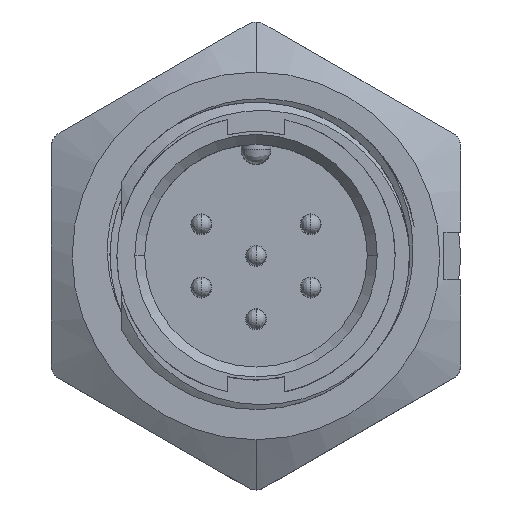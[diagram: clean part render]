
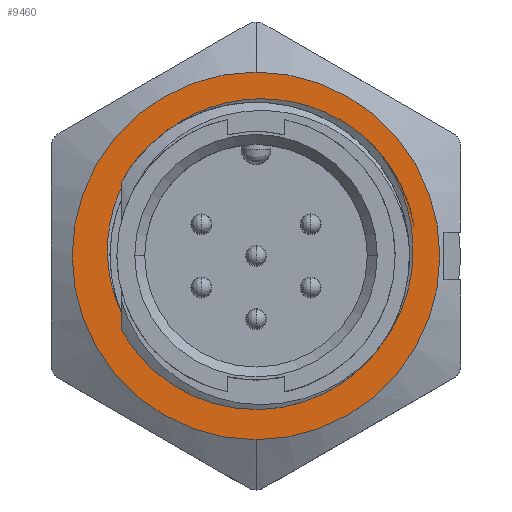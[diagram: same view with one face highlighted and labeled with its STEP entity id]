
A CAD part, top view. The second image highlights one B-rep face of the part: STEP entity #9460.
In plain terms, the highlighted planar face has unit normal (0, 0, 1).
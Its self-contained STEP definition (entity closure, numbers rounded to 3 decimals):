
#13 = CARTESIAN_POINT ( 'NONE',  ( 5.077, -5.803, -6.1 ) ) ;
#81 = CARTESIAN_POINT ( 'NONE',  ( -5.289, 5.656, -6.1 ) ) ;
#502 = CARTESIAN_POINT ( 'NONE',  ( 5.365, 6.07, -6.1 ) ) ;
#825 = EDGE_CURVE ( 'NONE', #9257, #6768, #1344, .T. ) ;
#884 = CARTESIAN_POINT ( 'NONE',  ( 2.14, 7.737, -6.1 ) ) ;
#935 = CARTESIAN_POINT ( 'NONE',  ( -6.682, -3.063, -6.1 ) ) ;
#1097 = CARTESIAN_POINT ( 'NONE',  ( 7.879, 1.35, -6.1 ) ) ;
#1233 = CARTESIAN_POINT ( 'NONE',  ( 6.808, -3.822, -6.1 ) ) ;
#1344 = CIRCLE ( 'NONE', #4347, 9.25 ) ;
#1443 = CARTESIAN_POINT ( 'NONE',  ( 5.578, 5.883, -6.1 ) ) ;
#1490 = ORIENTED_EDGE ( 'NONE', *, *, #5767, .F. ) ;
#1926 = CARTESIAN_POINT ( 'NONE',  ( -5.759, -4.569, -6.1 ) ) ;
#1969 = CARTESIAN_POINT ( 'NONE',  ( 5.365, 6.07, -6.1 ) ) ;
#2321 = CARTESIAN_POINT ( 'NONE',  ( -7.483, 1.038, -6.1 ) ) ;
#2554 = ORIENTED_EDGE ( 'NONE', *, *, #8163, .T. ) ;
#2592 = B_SPLINE_CURVE_WITH_KNOTS ( 'NONE', 3,
 ( #14337, #4383, #8807, #13172, #13247, #3297, #7717, #12148, #13100, #10841, #1926, #6485, #11857, #12083, #9817, #4311 ),
 .UNSPECIFIED., .F., .F.,
 ( 4, 1, 2, 2, 2, 1, 2, 2, 4 ),
 ( 0., 0.125, 0.188, 0.25, 0.5, 0.625, 0.688, 0.75, 1. ),
 .UNSPECIFIED. ) ;
#2645 = EDGE_LOOP ( 'NONE', ( #9627, #8910, #2554, #1490 ) ) ;
#2744 = AXIS2_PLACEMENT_3D ( 'NONE', #12476, #4917, #6013 ) ;
#2978 = CIRCLE ( 'NONE', #2744, 9.25 ) ;
#2981 = CARTESIAN_POINT ( 'NONE',  ( 0., 0., -6.1 ) ) ;
#3297 = CARTESIAN_POINT ( 'NONE',  ( -4.029, -6.148, -6.1 ) ) ;
#3338 = CARTESIAN_POINT ( 'NONE',  ( 7.06, 3.95, -6.1 ) ) ;
#3340 = CARTESIAN_POINT ( 'NONE',  ( -3.918, 6.752, -6.1 ) ) ;
#3412 = CARTESIAN_POINT ( 'NONE',  ( -3.134, 7.185, -6.1 ) ) ;
#3485 = CARTESIAN_POINT ( 'NONE',  ( 7.921, -0.448, -6.1 ) ) ;
#3519 = FACE_BOUND ( 'NONE', #2645, .T. ) ;
#3692 = CARTESIAN_POINT ( 'NONE',  ( 5.992, 5.451, -6.1 ) ) ;
#4311 = CARTESIAN_POINT ( 'NONE',  ( -6.682, -3.063, -6.1 ) ) ;
#4347 = AXIS2_PLACEMENT_3D ( 'NONE', #2981, #8276, #6374 ) ;
#4348 = CARTESIAN_POINT ( 'NONE',  ( 3.618, -6.74, -6.1 ) ) ;
#4383 = CARTESIAN_POINT ( 'NONE',  ( -3.169, -6.635, -6.1 ) ) ;
#4704 = CARTESIAN_POINT ( 'NONE',  ( -0.561, 7.913, -6.1 ) ) ;
#4740 = CARTESIAN_POINT ( 'NONE',  ( 0., 0., -6.1 ) ) ;
#4841 = CARTESIAN_POINT ( 'NONE',  ( 5.798, 5.667, -6.1 ) ) ;
#4917 = DIRECTION ( 'NONE',  ( 0., 0., -1. ) ) ;
#4942 = EDGE_LOOP ( 'NONE', ( #9682, #10921 ) ) ;
#5162 = VERTEX_POINT ( 'NONE', #935 ) ;
#5296 = CARTESIAN_POINT ( 'NONE',  ( 1.237, 7.899, -6.1 ) ) ;
#5671 = FACE_OUTER_BOUND ( 'NONE', #4942, .T. ) ;
#5767 = EDGE_CURVE ( 'NONE', #13512, #13567, #8271, .T. ) ;
#5769 = B_SPLINE_CURVE_WITH_KNOTS ( 'NONE', 3,
 ( #502, #13842, #1443, #4841, #5852, #3692 ),
 .UNSPECIFIED., .F., .F.,
 ( 4, 2, 4 ),
 ( 0., 0.5, 1. ),
 .UNSPECIFIED. ) ;
#5838 = EDGE_CURVE ( 'NONE', #6768, #9257, #2978, .T. ) ;
#5852 = CARTESIAN_POINT ( 'NONE',  ( 5.899, 5.559, -6.1 ) ) ;
#6013 = DIRECTION ( 'NONE',  ( -1., 0., 0. ) ) ;
#6374 = DIRECTION ( 'NONE',  ( -1., 0., 0. ) ) ;
#6378 = CARTESIAN_POINT ( 'NONE',  ( 4.655, 6.655, -6.1 ) ) ;
#6485 = CARTESIAN_POINT ( 'NONE',  ( -5.895, -4.391, -6.1 ) ) ;
#6732 = CARTESIAN_POINT ( 'NONE',  ( -2.967, -6.725, -6.1 ) ) ;
#6768 = VERTEX_POINT ( 'NONE', #11901 ) ;
#6851 = EDGE_CURVE ( 'NONE', #10382, #5162, #14324, .T. ) ;
#7717 = CARTESIAN_POINT ( 'NONE',  ( -4.494, -5.834, -6.1 ) ) ;
#7759 = CARTESIAN_POINT ( 'NONE',  ( 5.992, 5.451, -6.1 ) ) ;
#7761 = CARTESIAN_POINT ( 'NONE',  ( -6.682, -3.063, -6.1 ) ) ;
#7806 = CARTESIAN_POINT ( 'NONE',  ( 5.992, 5.451, -6.1 ) ) ;
#8163 = EDGE_CURVE ( 'NONE', #10382, #13567, #5769, .T. ) ;
#8271 = B_SPLINE_CURVE_WITH_KNOTS ( 'NONE', 3,
 ( #6732, #10063, #12192, #8914, #10221, #11096, #4348, #13, #12122, #1233, #11024, #13428, #3485, #1097, #8842, #3338, #13281, #7759 ),
 .UNSPECIFIED., .F., .F.,
 ( 4, 2, 2, 2, 2, 2, 2, 2, 4 ),
 ( 0., 0.125, 0.25, 0.375, 0.5, 0.625, 0.75, 0.875, 1. ),
 .UNSPECIFIED. ) ;
#8276 = DIRECTION ( 'NONE',  ( 0., 0., -1. ) ) ;
#8807 = CARTESIAN_POINT ( 'NONE',  ( -3.465, -6.489, -6.1 ) ) ;
#8842 = CARTESIAN_POINT ( 'NONE',  ( 7.706, 2.251, -6.1 ) ) ;
#8910 = ORIENTED_EDGE ( 'NONE', *, *, #6851, .F. ) ;
#8914 = CARTESIAN_POINT ( 'NONE',  ( 0.283, -7.518, -6.1 ) ) ;
#8987 = CARTESIAN_POINT ( 'NONE',  ( -7.521, 0.176, -6.1 ) ) ;
#9097 = DIRECTION ( 'NONE',  ( 0., 0., 1. ) ) ;
#9257 = VERTEX_POINT ( 'NONE', #12968 ) ;
#9460 = ADVANCED_FACE ( 'NONE', ( #3519, #5671 ), #13610, .T. ) ;
#9627 = ORIENTED_EDGE ( 'NONE', *, *, #13829, .T. ) ;
#9682 = ORIENTED_EDGE ( 'NONE', *, *, #825, .F. ) ;
#9817 = CARTESIAN_POINT ( 'NONE',  ( -6.497, -3.464, -6.1 ) ) ;
#9975 = CARTESIAN_POINT ( 'NONE',  ( -2.967, -6.725, -6.1 ) ) ;
#10063 = CARTESIAN_POINT ( 'NONE',  ( -2.216, -7.089, -6.1 ) ) ;
#10221 = CARTESIAN_POINT ( 'NONE',  ( 1.145, -7.467, -6.1 ) ) ;
#10223 = CARTESIAN_POINT ( 'NONE',  ( -7.058, -2.317, -6.1 ) ) ;
#10382 = VERTEX_POINT ( 'NONE', #14090 ) ;
#10810 = CARTESIAN_POINT ( 'NONE',  ( 3.849, 7.115, -6.1 ) ) ;
#10841 = CARTESIAN_POINT ( 'NONE',  ( -5.548, -4.83, -6.1 ) ) ;
#10921 = ORIENTED_EDGE ( 'NONE', *, *, #5838, .F. ) ;
#11024 = CARTESIAN_POINT ( 'NONE',  ( 7.228, -3.031, -6.1 ) ) ;
#11096 = CARTESIAN_POINT ( 'NONE',  ( 2.813, -7.078, -6.1 ) ) ;
#11349 = DIRECTION ( 'NONE',  ( 1., 0., 0. ) ) ;
#11857 = CARTESIAN_POINT ( 'NONE',  ( -5.963, -4.299, -6.1 ) ) ;
#11901 = CARTESIAN_POINT ( 'NONE',  ( 0., 9.25, -6.1 ) ) ;
#11963 = AXIS2_PLACEMENT_3D ( 'NONE', #4740, #9097, #11349 ) ;
#12083 = CARTESIAN_POINT ( 'NONE',  ( -6.279, -3.846, -6.1 ) ) ;
#12122 = CARTESIAN_POINT ( 'NONE',  ( 5.732, -5.207, -6.1 ) ) ;
#12148 = CARTESIAN_POINT ( 'NONE',  ( -4.84, -5.549, -6.1 ) ) ;
#12192 = CARTESIAN_POINT ( 'NONE',  ( -1.397, -7.328, -6.1 ) ) ;
#12195 = CARTESIAN_POINT ( 'NONE',  ( -7.119, 2.711, -6.1 ) ) ;
#12268 = CARTESIAN_POINT ( 'NONE',  ( -6.791, 3.521, -6.1 ) ) ;
#12332 = CARTESIAN_POINT ( 'NONE',  ( -1.455, 7.766, -6.1 ) ) ;
#12476 = CARTESIAN_POINT ( 'NONE',  ( 0., 0., -6.1 ) ) ;
#12968 = CARTESIAN_POINT ( 'NONE',  ( 0., -9.25, -6.1 ) ) ;
#13100 = CARTESIAN_POINT ( 'NONE',  ( -5.32, -5.077, -6.1 ) ) ;
#13172 = CARTESIAN_POINT ( 'NONE',  ( -3.75, -6.322, -6.1 ) ) ;
#13247 = CARTESIAN_POINT ( 'NONE',  ( -3.938, -6.207, -6.1 ) ) ;
#13281 = CARTESIAN_POINT ( 'NONE',  ( 6.588, 4.749, -6.1 ) ) ;
#13283 = CARTESIAN_POINT ( 'NONE',  ( -7.308, -1.502, -6.1 ) ) ;
#13428 = CARTESIAN_POINT ( 'NONE',  ( 7.786, -1.344, -6.1 ) ) ;
#13430 = CARTESIAN_POINT ( 'NONE',  ( -5.876, 4.994, -6.1 ) ) ;
#13512 = VERTEX_POINT ( 'NONE', #9975 ) ;
#13567 = VERTEX_POINT ( 'NONE', #7806 ) ;
#13610 = PLANE ( 'NONE',  #11963 ) ;
#13829 = EDGE_CURVE ( 'NONE', #13512, #5162, #2592, .T. ) ;
#13842 = CARTESIAN_POINT ( 'NONE',  ( 5.469, 5.983, -6.1 ) ) ;
#14090 = CARTESIAN_POINT ( 'NONE',  ( 5.365, 6.07, -6.1 ) ) ;
#14324 = B_SPLINE_CURVE_WITH_KNOTS ( 'NONE', 3,
 ( #1969, #6378, #10810, #884, #5296, #4704, #12332, #3412, #3340, #81, #13430, #12268, #12195, #2321, #8987, #13283, #10223, #7761 ),
 .UNSPECIFIED., .F., .F.,
 ( 4, 2, 2, 2, 2, 2, 2, 2, 4 ),
 ( 0., 0.125, 0.25, 0.375, 0.5, 0.625, 0.75, 0.875, 1. ),
 .UNSPECIFIED. ) ;
#14337 = CARTESIAN_POINT ( 'NONE',  ( -2.967, -6.725, -6.1 ) ) ;
